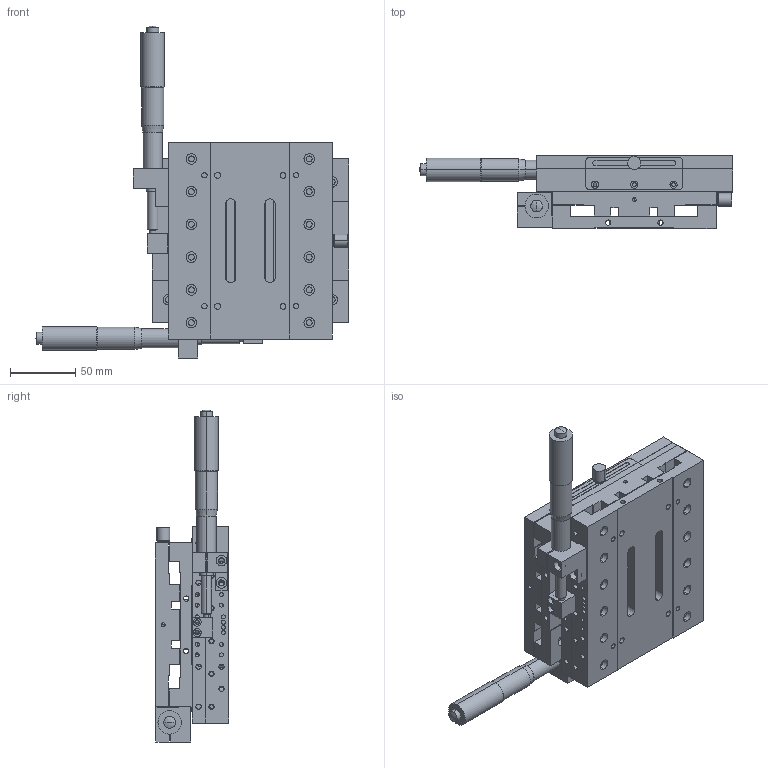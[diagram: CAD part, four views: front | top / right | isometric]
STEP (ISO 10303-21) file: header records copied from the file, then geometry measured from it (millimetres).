
FILE_DESCRIPTION (( 'STEP AP203' ), '1' );
FILE_NAME ('M2-238(0)-L1.STEP', '2014-08-13T21:51:46', ( 'Registered User' ), ( 'Microsoft Corporation' ), 'SwSTEP 2.0', 'SolidWorks 2012', '' );
FILE_SCHEMA (( 'CONFIG_CONTROL_DESIGN' ));
Length unit declared in the file: millimetre
Products named in the file (2): M2-238(0)-L1; M1-238-L1
Assembly tree (2 placements, depth 2):
  M2-238(0)-L1
    M1-238-L1  x2
Bounding box: 239 x 56 x 253.5 mm (x, y, z)
Surface area: 238268.1 mm2 (no closed solid volume)
Topology: 0 solids, 20 shells, 634 faces, 1948 edges, 1370 vertices
Faces by surface type: cylinder 438, plane 184, cone 8, sphere 4
Entity records: 11636 total; most frequent: DIRECTION 2158, CARTESIAN_POINT 2097, ORIENTED_EDGE 1651, EDGE_CURVE 974, AXIS2_PLACEMENT_3D 872, VERTEX_POINT 685, CIRCLE 550, EDGE_LOOP 476
